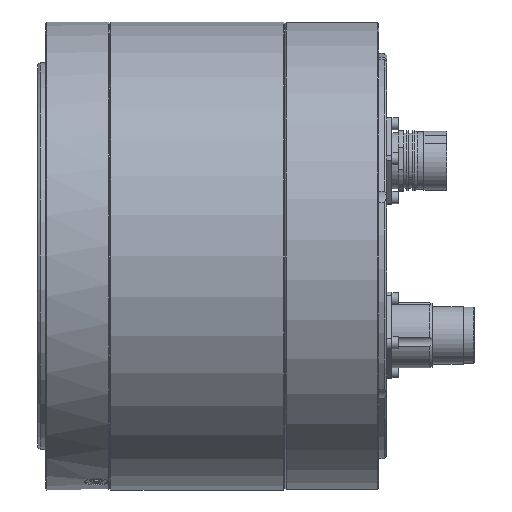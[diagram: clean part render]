
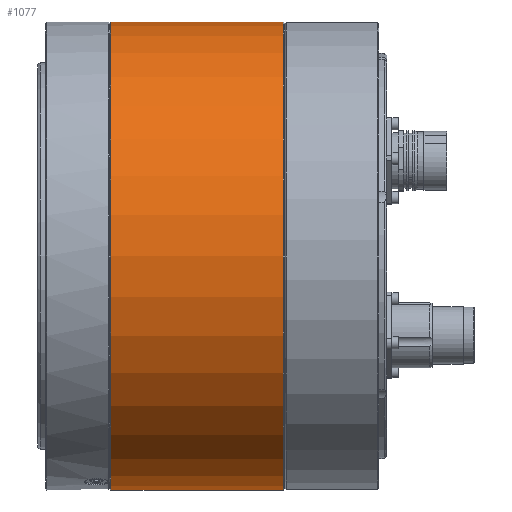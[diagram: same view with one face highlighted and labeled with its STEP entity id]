
A CAD part, front view. The second image highlights one B-rep face of the part: STEP entity #1077.
In plain terms, the highlighted cylindrical face has radius 89.5 mm (diameter 179 mm), a full revolution.
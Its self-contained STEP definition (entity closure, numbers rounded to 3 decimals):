
#1077 = ADVANCED_FACE( '', ( #2245, #2246 ), #2247, .T. );
#2245 = FACE_OUTER_BOUND( '', #4329, .T. );
#2246 = FACE_OUTER_BOUND( '', #4330, .T. );
#2247 = CYLINDRICAL_SURFACE( '', #4331, 89.5 );
#4329 = EDGE_LOOP( '', ( #6827 ) );
#4330 = EDGE_LOOP( '', ( #6828 ) );
#4331 = AXIS2_PLACEMENT_3D( '', #6829, #6830, #6831 );
#6827 = ORIENTED_EDGE( '', *, *, #10399, .T. );
#6828 = ORIENTED_EDGE( '', *, *, #10400, .T. );
#6829 = CARTESIAN_POINT( '', ( 0., -60., 0. ) );
#6830 = DIRECTION( '', ( 0., 1., 0. ) );
#6831 = DIRECTION( '', ( 0., 0., -1. ) );
#10399 = EDGE_CURVE( '', #12942, #12942, #12943, .F. );
#10400 = EDGE_CURVE( '', #12944, #12944, #12945, .F. );
#12942 = VERTEX_POINT( '', #15008 );
#12943 = CIRCLE( '', #15009, 89.5 );
#12944 = VERTEX_POINT( '', #15010 );
#12945 = CIRCLE( '', #15011, 89.5 );
#15008 = CARTESIAN_POINT( '', ( 0., 66.5, 89.5 ) );
#15009 = AXIS2_PLACEMENT_3D( '', #18040, #18041, #18042 );
#15010 = CARTESIAN_POINT( '', ( 0., 0.5, -89.5 ) );
#15011 = AXIS2_PLACEMENT_3D( '', #18043, #18044, #18045 );
#18040 = CARTESIAN_POINT( '', ( 0., 66.5, 0. ) );
#18041 = DIRECTION( '', ( 0., 1., 0. ) );
#18042 = DIRECTION( '', ( 0., 0., 1. ) );
#18043 = CARTESIAN_POINT( '', ( 0., 0.5, 0. ) );
#18044 = DIRECTION( '', ( 0., -1., 0. ) );
#18045 = DIRECTION( '', ( 0., 0., -1. ) );
